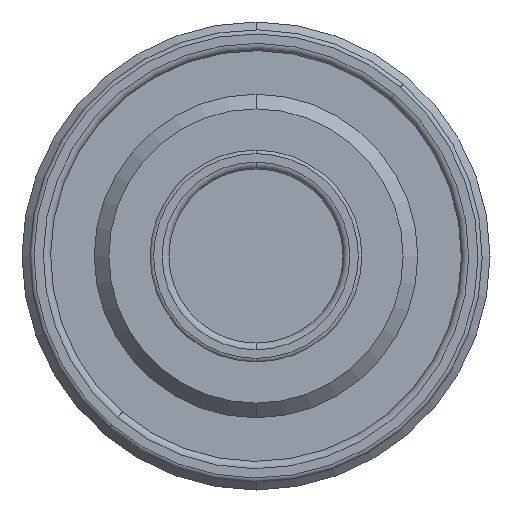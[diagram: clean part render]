
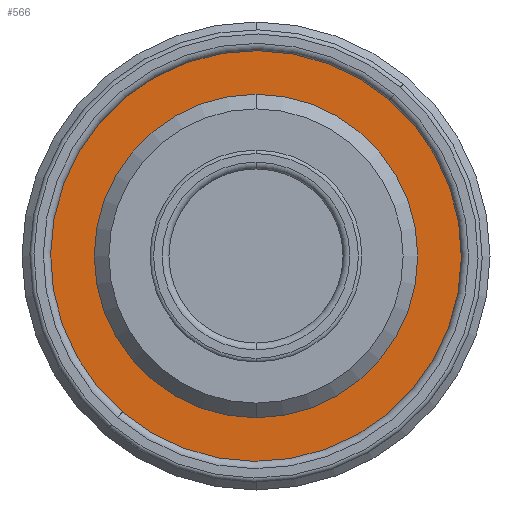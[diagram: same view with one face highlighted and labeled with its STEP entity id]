
A CAD part, front view. The second image highlights one B-rep face of the part: STEP entity #566.
In plain terms, the highlighted planar face has unit normal (0, -1, 0).
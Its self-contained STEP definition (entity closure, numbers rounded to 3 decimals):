
#171=PLANE('',#2533);
#209=FACE_BOUND('',#900,.T.);
#210=FACE_BOUND('',#901,.T.);
#566=ADVANCED_FACE('',(#209,#210),#171,.F.);
#900=EDGE_LOOP('',(#1206,#1207));
#901=EDGE_LOOP('',(#1208,#1209));
#1206=ORIENTED_EDGE('',*,*,#2003,.F.);
#1207=ORIENTED_EDGE('',*,*,#1934,.F.);
#1208=ORIENTED_EDGE('',*,*,#1930,.T.);
#1209=ORIENTED_EDGE('',*,*,#2004,.T.);
#1720=VERTEX_POINT('',#3676);
#1721=VERTEX_POINT('',#3678);
#1724=VERTEX_POINT('',#3685);
#1725=VERTEX_POINT('',#3687);
#1930=EDGE_CURVE('',#1721,#1720,#2240,.T.);
#1934=EDGE_CURVE('',#1724,#1725,#2243,.T.);
#2003=EDGE_CURVE('',#1725,#1724,#2289,.T.);
#2004=EDGE_CURVE('',#1720,#1721,#2290,.T.);
#2240=CIRCLE('',#2446,21.4);
#2243=CIRCLE('',#2450,15.55);
#2289=CIRCLE('',#2530,15.55);
#2290=CIRCLE('',#2532,21.4);
#2446=AXIS2_PLACEMENT_3D('',#3677,#2847,#2848);
#2450=AXIS2_PLACEMENT_3D('',#3686,#2856,#2857);
#2530=AXIS2_PLACEMENT_3D('',#3991,#3029,#3030);
#2532=AXIS2_PLACEMENT_3D('',#3993,#3033,#3034);
#2533=AXIS2_PLACEMENT_3D('',#3994,#3035,#3036);
#2847=DIRECTION('',(0.,-1.,0.));
#2848=DIRECTION('',(0.,0.,-1.));
#2856=DIRECTION('',(0.,-1.,0.));
#2857=DIRECTION('',(0.,0.,-1.));
#3029=DIRECTION('',(0.,-1.,0.));
#3030=DIRECTION('',(0.,0.,-1.));
#3033=DIRECTION('',(0.,-1.,0.));
#3034=DIRECTION('',(0.,0.,-1.));
#3035=DIRECTION('',(0.,1.,0.));
#3036=DIRECTION('',(0.,0.,-1.));
#3676=CARTESIAN_POINT('',(0.,-1.2,21.4));
#3677=CARTESIAN_POINT('',(0.,-1.2,0.));
#3678=CARTESIAN_POINT('',(0.,-1.2,-21.4));
#3685=CARTESIAN_POINT('',(0.,-1.2,-15.55));
#3686=CARTESIAN_POINT('',(0.,-1.2,0.));
#3687=CARTESIAN_POINT('',(0.,-1.2,15.55));
#3991=CARTESIAN_POINT('',(0.,-1.2,0.));
#3993=CARTESIAN_POINT('',(0.,-1.2,0.));
#3994=CARTESIAN_POINT('',(0.,-1.2,0.));
